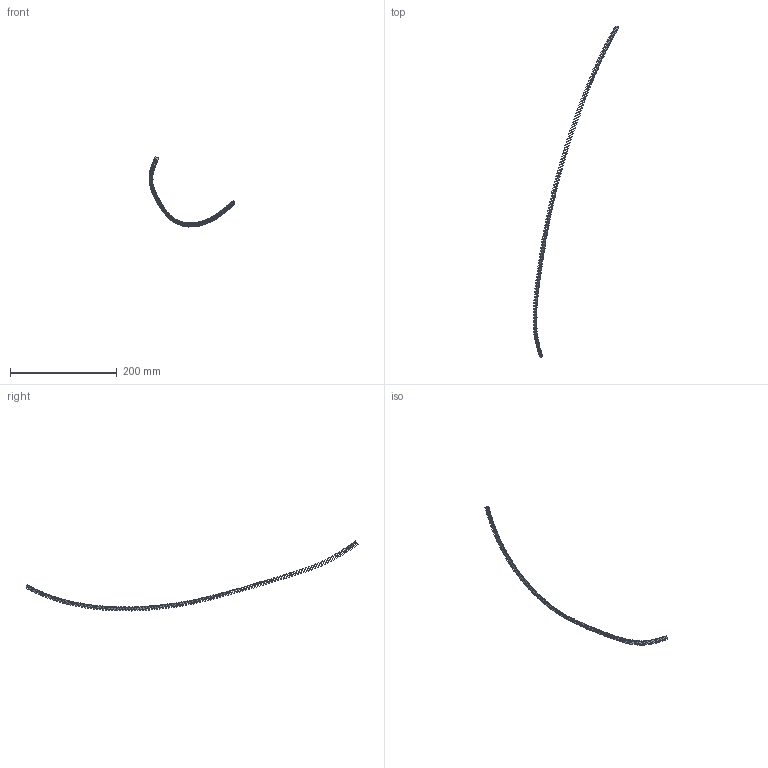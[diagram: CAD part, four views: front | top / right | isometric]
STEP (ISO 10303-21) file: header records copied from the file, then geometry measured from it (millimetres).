
FILE_DESCRIPTION(('FreeCAD Model'),'2;1');
FILE_NAME('Open CASCADE Shape Model','2022-05-22T07:50:06',('FreeCAD'),( 'FreeCAD'),'Open CASCADE STEP processor 7.5','FreeCAD','Unknown');
FILE_SCHEMA(('AUTOMOTIVE_DESIGN { 1 0 10303 214 1 1 1 1 }'));
Length unit declared in the file: millimetre
Products named in the file (224): Open CASCADE STEP translator 7.5 1; Open CASCADE STEP translator 7.5 1.1; Open CASCADE STEP translator 7.5 1.2; Open CASCADE STEP translator 7.5 1.3; Open CASCADE STEP translator 7.5 1.4; Open CASCADE STEP translator 7.5 1.5; Open CASCADE STEP translator 7.5 1.6; Open CASCADE STEP translator 7.5 1.7; Open CASCADE STEP translator 7.5 1.8; Open CASCADE STEP translator 7.5 1.9; Open CASCADE STEP translator 7.5 1.10; Open CASCADE STEP translator 7.5 1.11; Open CASCADE STEP translator 7.5 1.12; Open CASCADE STEP translator 7.5 1.13; Open CASCADE STEP translator 7.5 1.14; Open CASCADE STEP translator 7.5 1.15; Open CASCADE STEP translator 7.5 1.16; Open CASCADE STEP translator 7.5 1.17; Open CASCADE STEP translator 7.5 1.18; Open CASCADE STEP translator 7.5 1.19; Open CASCADE STEP translator 7.5 1.20; Open CASCADE STEP translator 7.5 1.21; Open CASCADE STEP translator 7.5 1.22; Open CASCADE STEP translator 7.5 1.23; Open CASCADE STEP translator 7.5 1.24; Open CASCADE STEP translator 7.5 1.25; Open CASCADE STEP translator 7.5 1.26; Open CASCADE STEP translator 7.5 1.27; Open CASCADE STEP translator 7.5 1.28; Open CASCADE STEP translator 7.5 1.29; Open CASCADE STEP translator 7.5 1.30; Open CASCADE STEP translator 7.5 1.31; Open CASCADE STEP translator 7.5 1.32; Open CASCADE STEP translator 7.5 1.33; Open CASCADE STEP translator 7.5 1.34; Open CASCADE STEP translator 7.5 1.35; Open CASCADE STEP translator 7.5 1.36; Open CASCADE STEP translator 7.5 1.37; Open CASCADE STEP translator 7.5 1.38; Open CASCADE STEP translator 7.5 1.39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
Assembly tree (223 placements, depth 2):
  Open CASCADE STEP translator 7.5 1
    Open CASCADE STEP translator 7.5 1.1
    Open CASCADE STEP translator 7.5 1.2
    Open CASCADE STEP translator 7.5 1.3
    Open CASCADE STEP translator 7.5 1.4
    Open CASCADE STEP translator 7.5 1.5
    Open CASCADE STEP translator 7.5 1.6
    Open CASCADE STEP translator 7.5 1.7
    Open CASCADE STEP translator 7.5 1.8
    Open CASCADE STEP translator 7.5 1.9
    Open CASCADE STEP translator 7.5 1.10
    Open CASCADE STEP translator 7.5 1.11
    Open CASCADE STEP translator 7.5 1.12
    Open CASCADE STEP translator 7.5 1.13
    Open CASCADE STEP translator 7.5 1.14
    Open CASCADE STEP translator 7.5 1.15
    Open CASCADE STEP translator 7.5 1.16
    Open CASCADE STEP translator 7.5 1.17
    Open CASCADE STEP translator 7.5 1.18
    Open CASCADE STEP translator 7.5 1.19
    Open CASCADE STEP translator 7.5 1.20
    Open CASCADE STEP translator 7.5 1.21
    Open CASCADE STEP translator 7.5 1.22
    Open CASCADE STEP translator 7.5 1.23
    Open CASCADE STEP translator 7.5 1.24
    Open CASCADE STEP translator 7.5 1.25
    Open CASCADE STEP translator 7.5 1.26
    Open CASCADE STEP translator 7.5 1.27
    Open CASCADE STEP translator 7.5 1.28
    Open CASCADE STEP translator 7.5 1.29
    Open CASCADE STEP translator 7.5 1.30
    Open CASCADE STEP translator 7.5 1.31
    Open CASCADE STEP translator 7.5 1.32
    Open CASCADE STEP translator 7.5 1.33
    Open CASCADE STEP translator 7.5 1.34
    Open CASCADE STEP translator 7.5 1.35
    Open CASCADE STEP translator 7.5 1.36
    Open CASCADE STEP translator 7.5 1.37
    Open CASCADE STEP translator 7.5 1.38
    Open CASCADE STEP translator 7.5 1.39
    Open CASCADE STEP translator 7.5 1.40
    Open CASCADE STEP translator 7.5 1.41
    Open CASCADE STEP translator 7.5 1.42
    Open CASCADE STEP translator 7.5 1.43
    Open CASCADE STEP translator 7.5 1.44
    Open CASCADE STEP translator 7.5 1.45
    Open CASCADE STEP translator 7.5 1.46
    Open CASCADE STEP translator 7.5 1.47
    Open CASCADE STEP translator 7.5 1.48
    Open CASCADE STEP translator 7.5 1.49
    Open CASCADE STEP translator 7.5 1.50
    Open CASCADE STEP translator 7.5 1.51
    Open CASCADE STEP translator 7.5 1.52
    Open CASCADE STEP translator 7.5 1.53
    Open CASCADE STEP translator 7.5 1.54
    Open CASCADE STEP translator 7.5 1.55
    Open CASCADE STEP translator 7.5 1.56
    Open CASCADE STEP translator 7.5 1.57
    Open CASCADE STEP translator 7.5 1.58
    Open CASCADE STEP translator 7.5 1.59
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Bounding box: 160.69 x 621.14 x 131.31 mm (x, y, z)
Surface area: 7061.8 mm2 (no closed solid volume)
Topology: 0 solids, 223 shells, 223 faces, 2158 edges, 2158 vertices
Faces by surface type: bspline 223
Entity records: 34314 total; most frequent: CARTESIAN_POINT 11906, B_SPLINE_CURVE_WITH_KNOTS 4316, ORIENTED_EDGE 2158, EDGE_CURVE 2158, VERTEX_POINT 2158, SURFACE_CURVE 2158, PCURVE 2158, DEFINITIONAL_REPRESENTATION 2158
